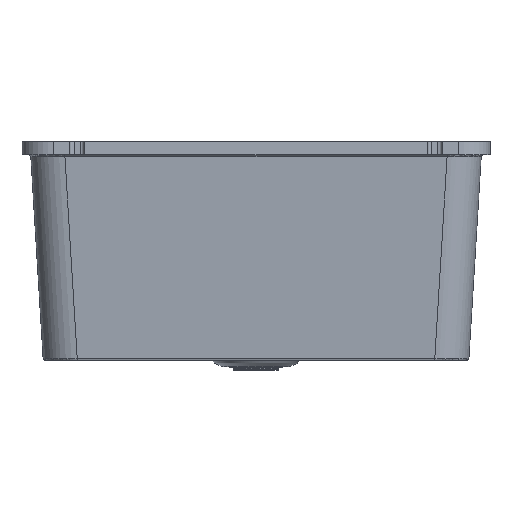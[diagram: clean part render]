
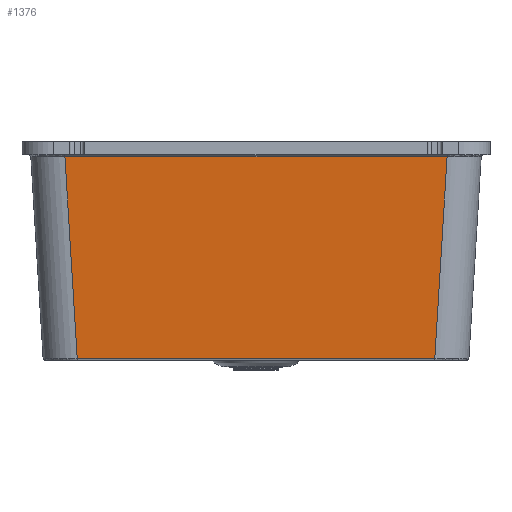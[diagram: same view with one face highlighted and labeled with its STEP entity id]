
A CAD part, front view. The second image highlights one B-rep face of the part: STEP entity #1376.
In plain terms, the highlighted planar face has unit normal (0, -0.998, -0.061).
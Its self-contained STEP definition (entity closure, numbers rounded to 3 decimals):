
#1376=ADVANCED_FACE('',(#2963),#27281,.T.);
#2963=FACE_OUTER_BOUND('',#4607,.T.);
#4607=EDGE_LOOP('',(#11881,#11882,#11883,#11884));
#11881=ORIENTED_EDGE('',*,*,#16814,.F.);
#11882=ORIENTED_EDGE('',*,*,#17038,.F.);
#11883=ORIENTED_EDGE('',*,*,#16815,.F.);
#11884=ORIENTED_EDGE('',*,*,#16813,.F.);
#16813=EDGE_CURVE('',#25843,#25845,#19546,.T.);
#16814=EDGE_CURVE('',#25891,#25843,#19547,.T.);
#16815=EDGE_CURVE('',#25845,#25892,#19548,.T.);
#17038=EDGE_CURVE('',#25892,#25891,#19636,.T.);
#19546=B_SPLINE_CURVE_WITH_KNOTS('',1,(#81695,#81696),.UNSPECIFIED.,.F.,
 .F.,(2,2),(-339.954,0.),.UNSPECIFIED.);
#19547=B_SPLINE_CURVE_WITH_KNOTS('',1,(#81697,#81698),.UNSPECIFIED.,.F.,
 .F.,(2,2),(-192.46,0.),.UNSPECIFIED.);
#19548=B_SPLINE_CURVE_WITH_KNOTS('',1,(#81699,#81700),.UNSPECIFIED.,.F.,
 .F.,(2,2),(-192.46,0.),.UNSPECIFIED.);
#19636=B_SPLINE_CURVE_WITH_KNOTS('',1,(#82819,#82820),.UNSPECIFIED.,.F.,
 .F.,(2,2),(0.,363.409),.UNSPECIFIED.);
#25843=VERTEX_POINT('',#80896);
#25845=VERTEX_POINT('',#80898);
#25891=VERTEX_POINT('',#80944);
#25892=VERTEX_POINT('',#80945);
#27281=PLANE('',#30371);
#30371=AXIS2_PLACEMENT_3D('',#72623,#34867,$);
#34867=DIRECTION('',(0.,-0.998,-0.061));
#72623=CARTESIAN_POINT('',(218.166,-198.736,-225.423));
#80896=CARTESIAN_POINT('',(169.977,-199.916,-206.122));
#80898=CARTESIAN_POINT('',(-169.977,-199.916,-206.122));
#80944=CARTESIAN_POINT('',(181.705,-211.644,-14.378));
#80945=CARTESIAN_POINT('',(-181.705,-211.644,-14.378));
#81695=CARTESIAN_POINT('',(169.977,-199.916,-206.122));
#81696=CARTESIAN_POINT('',(-169.977,-199.916,-206.122));
#81697=CARTESIAN_POINT('',(181.705,-211.644,-14.378));
#81698=CARTESIAN_POINT('',(169.977,-199.916,-206.122));
#81699=CARTESIAN_POINT('',(-169.977,-199.916,-206.122));
#81700=CARTESIAN_POINT('',(-181.705,-211.644,-14.378));
#82819=CARTESIAN_POINT('',(-181.705,-211.644,-14.378));
#82820=CARTESIAN_POINT('',(181.705,-211.644,-14.378));
